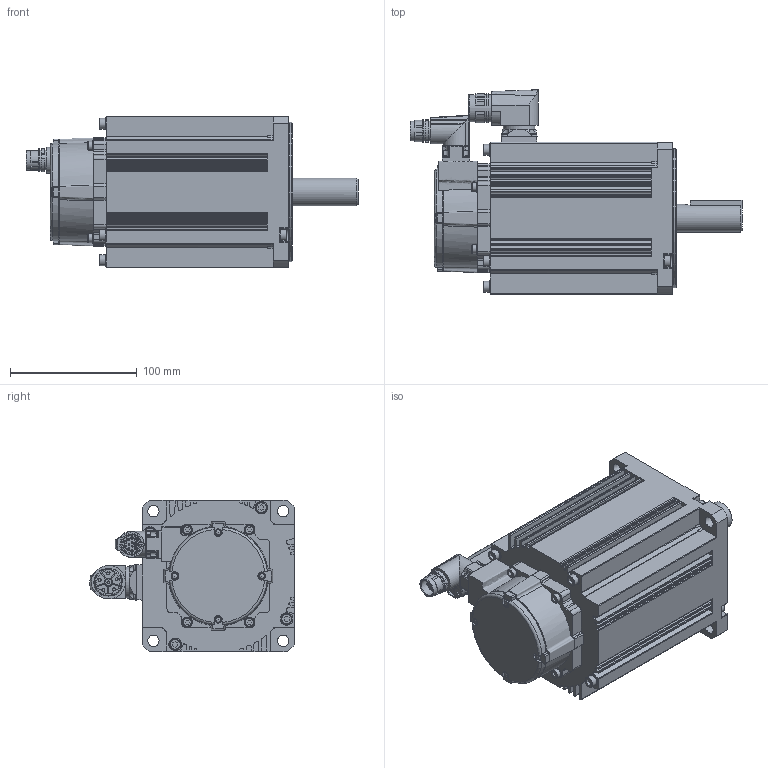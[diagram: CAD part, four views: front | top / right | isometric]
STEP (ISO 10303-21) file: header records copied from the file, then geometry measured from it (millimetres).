
FILE_DESCRIPTION(/* description */ ('STEP AP214'),/* implementation_level */ '2;1');
FILE_NAME(/* name */ 'MSMF304L1G9M',/* time_stamp */ '2025-08-21T07:47:12+02:00',/* author */ ('License CC BY-ND 4.0'),/* organization */ ('CADENAS'),/* preprocessor_version */ 'ST-DEVELOPER v19.3',/* originating_system */ 'PARTsolutions',/* authorisation */ ' ');
FILE_SCHEMA (('AUTOMOTIVE_DESIGN {1 0 10303 214 3 1 1}'));
Length unit declared in the file: millimetre
Products named in the file (4): MSMF304L1G9M; MSMF304L1G9M-Motor; BGC106N00001200000; AGC047N0000150A000_EC
Assembly tree (3 placements, depth 2):
  MSMF304L1G9M
    MSMF304L1G9M-Motor
    BGC106N00001200000
    AGC047N0000150A000_EC
Bounding box: 262.25 x 161.5 x 120 mm (x, y, z)
Volume: 2153657.5 mm3; surface area: 159355.4 mm2
Topology: 3 solids, 3 shells, 1010 faces, 2761 edges, 1842 vertices
Faces by surface type: plane 515, cylinder 396, cone 45, torus 23, bspline 19, sphere 12
Full cylindrical faces by diameter (mm): 1.25 x12, 2.232 x6, 2.459 x1, 2.8 x1, 5.5 x5, 6 x4, 7 x4, 8 x4, 8.5 x8, 9 x4, 10 x8, 13.4 x1, 15.54 x1, 16 x1, 16.2 x1, 19.7 x1, 21.6 x1, 22 x1, 24.1 x1, 38 x1, 110 x1
Entity records: 32029 total; most frequent: CARTESIAN_POINT 6415, DIRECTION 5429, ORIENTED_EDGE 5194, EDGE_CURVE 2597, AXIS2_PLACEMENT_3D 1988, VERTEX_POINT 1795, LINE 1453, VECTOR 1453
